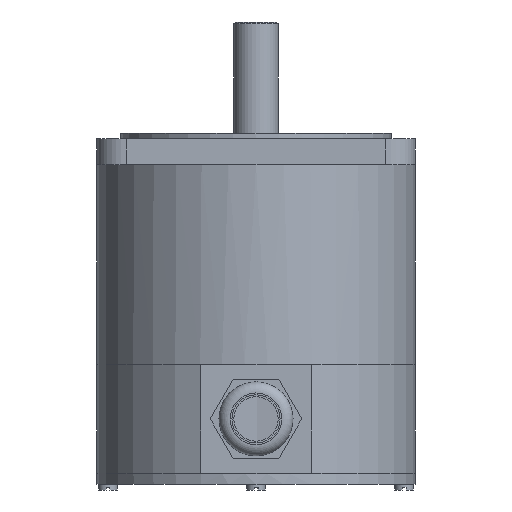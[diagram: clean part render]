
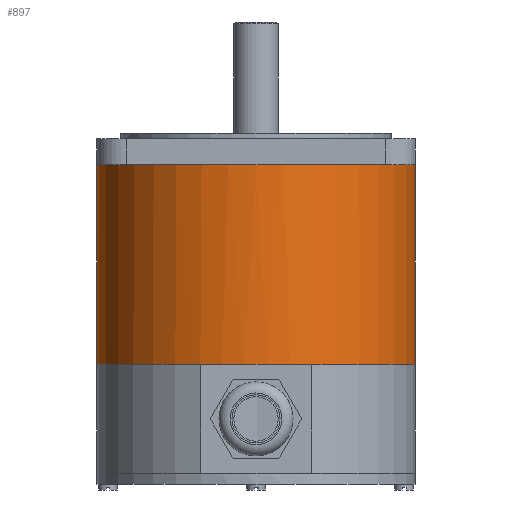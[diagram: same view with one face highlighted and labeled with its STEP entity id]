
A CAD part, front view. The second image highlights one B-rep face of the part: STEP entity #897.
In plain terms, the highlighted cylindrical face has radius 43 mm (diameter 86 mm), a full revolution.
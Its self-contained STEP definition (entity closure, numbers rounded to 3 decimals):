
#187=CARTESIAN_POINT('',(-69.773,-46.811,45.005));
#188=VERTEX_POINT('',#187);
#189=CARTESIAN_POINT('',(-26.773,-89.811,45.005));
#190=VERTEX_POINT('',#189);
#191=CARTESIAN_POINT('',(-69.773,-89.811,45.005));
#192=DIRECTION('',(0.0,0.0,-1.0));
#193=DIRECTION('',(-1.0,0.0,0.0));
#194=AXIS2_PLACEMENT_3D('',#191,#192,#193);
#195=CIRCLE('',#194,43.0);
#196=EDGE_CURVE('',#188,#190,#195,.T.);
#240=CARTESIAN_POINT('',(-112.773,-89.811,45.005));
#241=VERTEX_POINT('',#240);
#242=CARTESIAN_POINT('',(-69.773,-89.811,45.005));
#243=DIRECTION('',(0.0,0.0,-1.0));
#244=DIRECTION('',(-1.0,0.0,0.0));
#245=AXIS2_PLACEMENT_3D('',#242,#243,#244);
#246=CIRCLE('',#245,43.0);
#247=EDGE_CURVE('',#241,#188,#246,.T.);
#291=CARTESIAN_POINT('',(-69.773,-132.811,45.005));
#292=VERTEX_POINT('',#291);
#293=CARTESIAN_POINT('',(-69.773,-89.811,45.005));
#294=DIRECTION('',(0.0,0.0,-1.0));
#295=DIRECTION('',(-1.0,0.0,0.0));
#296=AXIS2_PLACEMENT_3D('',#293,#294,#295);
#297=CIRCLE('',#296,43.0);
#298=EDGE_CURVE('',#292,#241,#297,.T.);
#342=CARTESIAN_POINT('',(-69.773,-89.811,45.005));
#343=DIRECTION('',(0.0,0.0,-1.0));
#344=DIRECTION('',(-1.0,0.0,0.0));
#345=AXIS2_PLACEMENT_3D('',#342,#343,#344);
#346=CIRCLE('',#345,43.0);
#347=EDGE_CURVE('',#190,#292,#346,.T.);
#857=CARTESIAN_POINT('',(-69.773,-89.811,-8.995));
#858=DIRECTION('',(0.0,0.0,1.0));
#859=DIRECTION('',(-1.0,0.0,0.0));
#860=AXIS2_PLACEMENT_3D('',#857,#858,#859);
#861=CYLINDRICAL_SURFACE('',#860,43.0);
#862=ORIENTED_EDGE('',*,*,#347,.T.);
#863=ORIENTED_EDGE('',*,*,#298,.T.);
#864=ORIENTED_EDGE('',*,*,#247,.T.);
#865=ORIENTED_EDGE('',*,*,#196,.T.);
#866=EDGE_LOOP('',(#862,#863,#864,#865));
#867=FACE_OUTER_BOUND('',#866,.T.);
#868=CARTESIAN_POINT('',(-26.773,-89.811,-8.995));
#869=VERTEX_POINT('',#868);
#870=CARTESIAN_POINT('',(-54.74,-130.098,-8.995));
#871=VERTEX_POINT('',#870);
#872=CARTESIAN_POINT('',(-69.773,-89.811,-8.995));
#873=DIRECTION('',(0.0,0.0,-1.0));
#874=DIRECTION('',(-0.35,0.937,0.0));
#875=AXIS2_PLACEMENT_3D('',#872,#873,#874);
#876=CIRCLE('',#875,43.);
#877=EDGE_CURVE('',#869,#871,#876,.T.);
#878=ORIENTED_EDGE('',*,*,#877,.F.);
#879=CARTESIAN_POINT('',(-84.806,-130.098,-8.995));
#880=VERTEX_POINT('',#879);
#881=CARTESIAN_POINT('',(-69.773,-89.811,-8.995));
#882=DIRECTION('',(0.0,0.0,-1.0));
#883=DIRECTION('',(-0.35,0.937,0.0));
#884=AXIS2_PLACEMENT_3D('',#881,#882,#883);
#885=CIRCLE('',#884,43.);
#886=EDGE_CURVE('',#880,#869,#885,.T.);
#887=ORIENTED_EDGE('',*,*,#886,.F.);
#888=CARTESIAN_POINT('',(-69.773,-89.811,-8.995));
#889=DIRECTION('',(0.0,0.0,-1.0));
#890=DIRECTION('',(-1.0,0.0,0.0));
#891=AXIS2_PLACEMENT_3D('',#888,#889,#890);
#892=CIRCLE('',#891,43.0);
#893=EDGE_CURVE('',#871,#880,#892,.T.);
#894=ORIENTED_EDGE('',*,*,#893,.F.);
#895=EDGE_LOOP('',(#878,#887,#894));
#896=FACE_BOUND('',#895,.T.);
#897=ADVANCED_FACE('',(#867,#896),#861,.T.);
